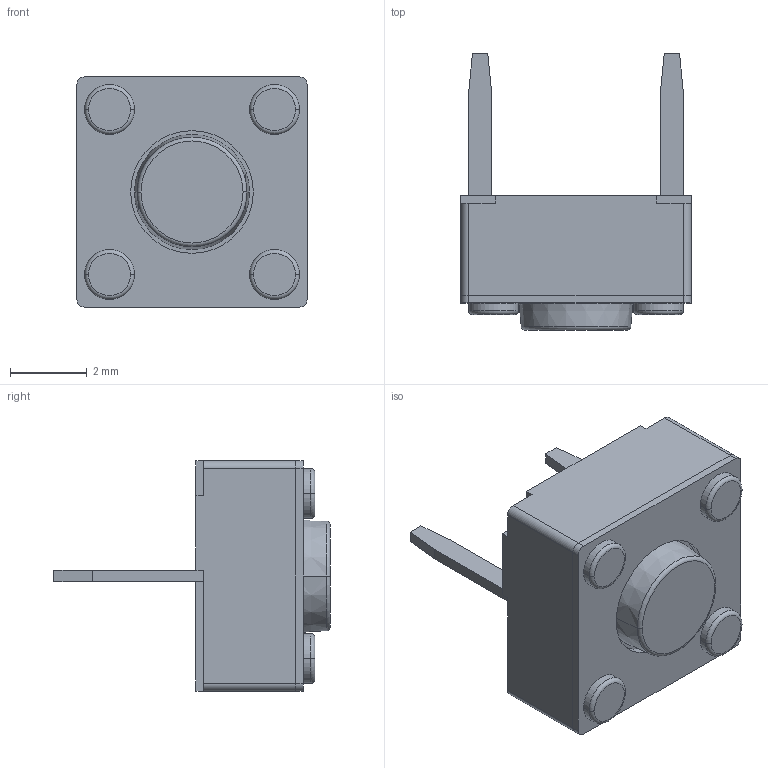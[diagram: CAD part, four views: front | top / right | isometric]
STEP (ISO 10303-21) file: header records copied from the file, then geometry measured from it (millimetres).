
FILE_DESCRIPTION((''),'2;1');
FILE_NAME('JSE6060-H0350-30C-104_ASM','2026-05-26T11:18:12',('Admin'),(''),'CREO PARAMETRIC BY PTC INC, 2019224','CREO PARAMETRIC BY PTC INC, 2019224','');
FILE_SCHEMA(('AUTOMOTIVE_DESIGN { 1 0 10303 214 1 1 1 1 }'));
Length unit declared in the file: millimetre
Products named in the file (3): JSE6060-H0350-30C-104_01; JSE6060-H0350-30C-104_02; JSE6060-H0350-30C-104_ASM
Assembly tree (2 placements, depth 2):
  JSE6060-H0350-30C-104_ASM
    JSE6060-H0350-30C-104_01
    JSE6060-H0350-30C-104_02
Bounding box: 6 x 7.2 x 6 mm (x, y, z)
Volume: 106.5 mm3; surface area: 227.9 mm2
Topology: 2 solids, 2 shells, 95 faces, 242 edges, 170 vertices
Faces by surface type: plane 49, cylinder 34, torus 10, cone 2
Entity records: 4063 total; most frequent: DIRECTION 546, CARTESIAN_POINT 505, ORIENTED_EDGE 464, PRESENTATION_STYLE_ASSIGNMENT 266, STYLED_ITEM 247, CURVE_STYLE 245, EDGE_CURVE 232, AXIS2_PLACEMENT_3D 198
